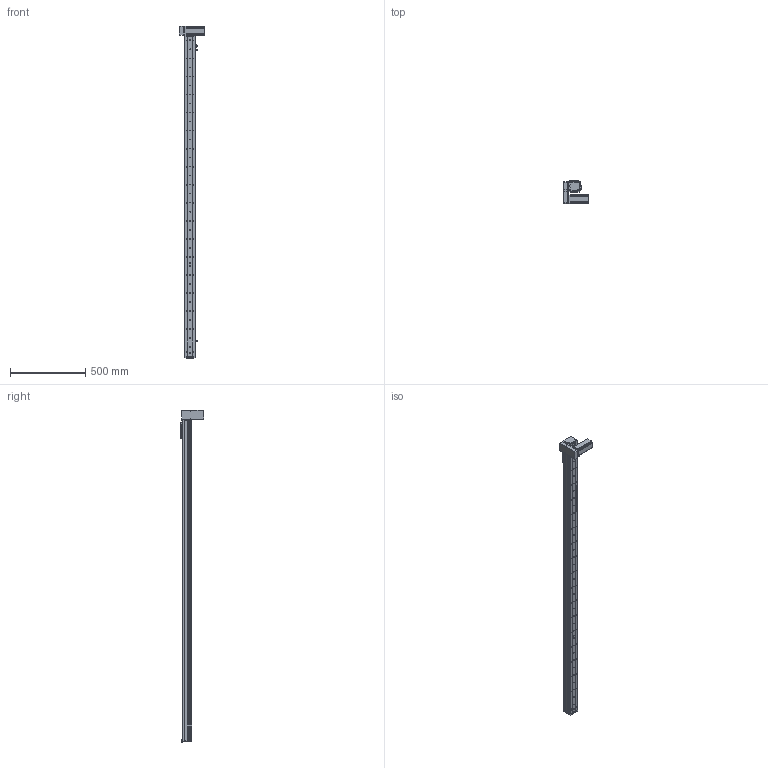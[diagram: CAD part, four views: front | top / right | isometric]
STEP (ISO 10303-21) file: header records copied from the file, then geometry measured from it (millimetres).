
FILE_DESCRIPTION (( 'STEP AP214' ), '1' );
FILE_NAME ('KSD68BS-S1950-MRD-CR.STEP', '2019-11-08T05:08:16', ( '微软用户' ), ( '微软中国' ), 'SwSTEP 2.0', 'SolidWorks 2014', '' );
FILE_SCHEMA (( 'AUTOMOTIVE_DESIGN' ));
Length unit declared in the file: millimetre
Products named in the file (14): KSD68BS 1950行程侧板全封闭; 68宽单导轨全封闭同步带端板; 68单导轨全封闭同步带电机座右; 68单导轨全封闭同步带安装板; 悵誘欶奻狟殏; 68遵裔啣揤啣1; 68宽马达安装板连板上折同步带; 感应片68宽全封闭; U倰嫖萇EEㄜSX672; 台达ECMA－C20604AS伺服电机（400W); KSD68BS 1950行程底板全封闭; KSD68BS-S1950-MRD-CR; KSD68BS 1950行程盖板全封闭; 68宽单导轨全封闭丝杆传动安装板1防护罩
Assembly tree (17 placements, depth 2):
  KSD68BS-S1950-MRD-CR
    KSD68BS 1950行程底板全封闭
    台达ECMA－C20604AS伺服电机（400W)
    U倰嫖萇EEㄜSX672  x3
    感应片68宽全封闭
    68宽马达安装板连板上折同步带
    悵誘欶奻狟殏
    68单导轨全封闭同步带安装板
    68单导轨全封闭同步带电机座右
    68宽单导轨全封闭同步带端板
    KSD68BS 1950行程侧板全封闭  x2
    68宽单导轨全封闭丝杆传动安装板1防护罩
    68遵裔啣揤啣1  x2
    KSD68BS 1950行程盖板全封闭
Bounding box: 167.2 x 155.5 x 2208.1 mm (x, y, z)
Volume: 3817476.8 mm3; surface area: 1575560.7 mm2
Topology: 18 solids, 18 shells, 1654 faces, 4791 edges, 3047 vertices
Faces by surface type: cylinder 823, plane 631, cone 200
Entity records: 54610 total; most frequent: CARTESIAN_POINT 9517, DIRECTION 8115, ORIENTED_EDGE 7762, EDGE_CURVE 3881, AXIS2_PLACEMENT_3D 2971, VERTEX_POINT 2545, LINE 2173, VECTOR 2173
